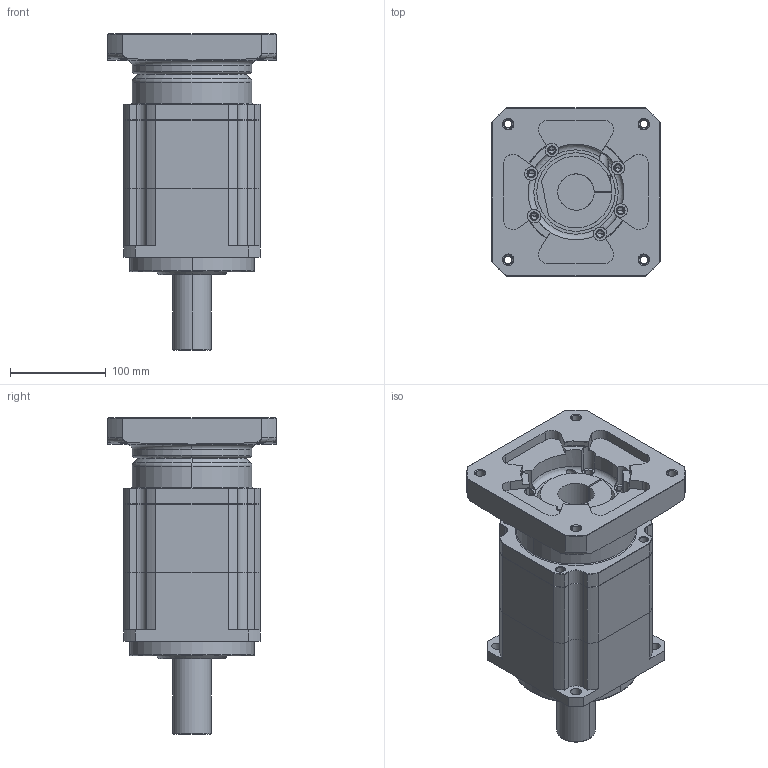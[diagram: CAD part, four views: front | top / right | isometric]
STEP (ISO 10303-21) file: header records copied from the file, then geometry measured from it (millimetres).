
FILE_DESCRIPTION((''),'2;1');
FILE_NAME('AB142A2-P0403500801_ASM','2020-03-11T',('D00080'),(''),'PRO/ENGINEER BY PARAMETRIC TECHNOLOGY CORPORATION, 2015240','PRO/ENGINEER BY PARAMETRIC TECHNOLOGY CORPORATION, 2015240','');
FILE_SCHEMA(('CONFIG_CONTROL_DESIGN'));
Length unit declared in the file: millimetre
Products named in the file (5): AB142A2; AB142A2-1; P1301500001; P0403500801; AB142A2-P0403500801_ASM
Assembly tree (4 placements, depth 2):
  AB142A2-P0403500801_ASM
    AB142A2
    AB142A2-1
    P1301500001
    P0403500801
Bounding box: 176 x 176 x 330.5 mm (x, y, z)
Volume: 3889118.6 mm3; surface area: 356897.6 mm2
Topology: 4 solids, 15 shells, 494 faces, 1239 edges, 769 vertices
Faces by surface type: cylinder 206, plane 114, cone 98, torus 74, bspline 2
Entity records: 15637 total; most frequent: CARTESIAN_POINT 3367, DIRECTION 2757, ORIENTED_EDGE 2404, EDGE_CURVE 1225, AXIS2_PLACEMENT_3D 1128, VERTEX_POINT 769, CIRCLE 621, EDGE_LOOP 568
